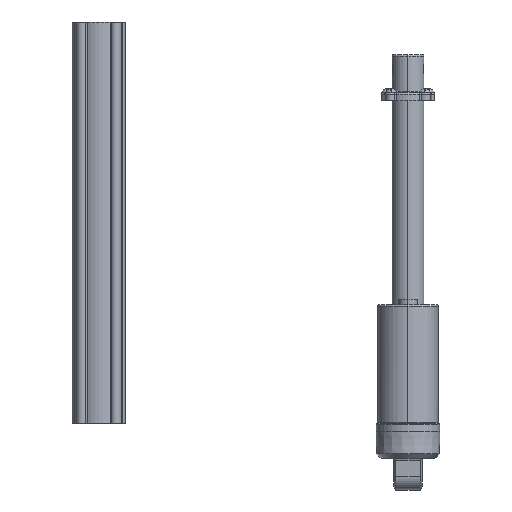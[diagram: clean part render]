
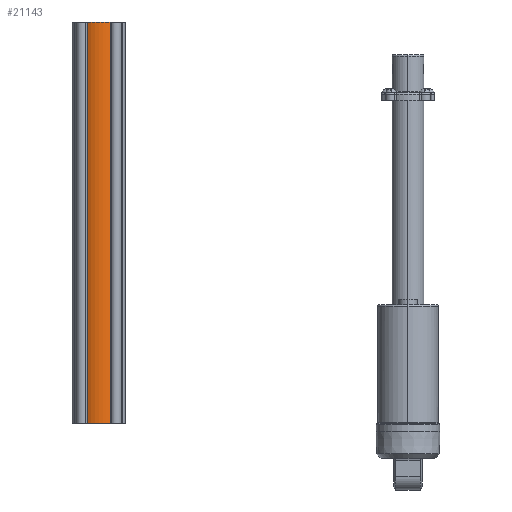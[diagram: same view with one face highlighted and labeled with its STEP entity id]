
A CAD part, left-side view. The second image highlights one B-rep face of the part: STEP entity #21143.
In plain terms, the highlighted cylindrical face has radius 15 mm (diameter 30 mm), a partial arc.
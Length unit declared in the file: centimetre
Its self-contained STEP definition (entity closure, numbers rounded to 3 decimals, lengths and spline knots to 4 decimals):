
#3224=CYLINDRICAL_SURFACE('',#23807,1.5);
#4313=LINE('',#34743,#25443);
#4314=LINE('',#34749,#25444);
#5996=VERTEX_POINT('',#34742);
#5997=VERTEX_POINT('',#34744);
#5998=VERTEX_POINT('',#34748);
#5999=VERTEX_POINT('',#34750);
#7784=CIRCLE('',#23808,1.5);
#7785=CIRCLE('',#23809,1.5);
#10422=EDGE_CURVE('',#5997,#5996,#4313,.T.);
#10424=EDGE_CURVE('',#5996,#5998,#7784,.T.);
#10425=EDGE_CURVE('',#5999,#5998,#4314,.T.);
#10426=EDGE_CURVE('',#5999,#5997,#7785,.T.);
#15720=ORIENTED_EDGE('',*,*,#10424,.T.);
#15721=ORIENTED_EDGE('',*,*,#10425,.F.);
#15722=ORIENTED_EDGE('',*,*,#10426,.T.);
#15723=ORIENTED_EDGE('',*,*,#10422,.T.);
#18585=EDGE_LOOP('',(#15720,#15721,#15722,#15723));
#19893=FACE_BOUND('',#18585,.T.);
#21143=ADVANCED_FACE('',(#19893),#3224,.T.);
#23807=AXIS2_PLACEMENT_3D('',#34746,#42604,#42605);
#23808=AXIS2_PLACEMENT_3D('',#34747,#42606,#42607);
#23809=AXIS2_PLACEMENT_3D('',#34751,#42609,#42610);
#25443=VECTOR('',#42601,1.);
#25444=VECTOR('',#42608,1.);
#34742=CARTESIAN_POINT('',(14.8607,18.6992,25.2));
#34743=CARTESIAN_POINT('',(14.8607,18.6992,0.));
#34744=CARTESIAN_POINT('',(14.8607,18.6992,0.));
#34746=CARTESIAN_POINT('',(16.1761,19.42,0.));
#34747=CARTESIAN_POINT('',(16.1761,19.42,25.2));
#34748=CARTESIAN_POINT('',(14.8607,20.1407,25.2));
#34749=CARTESIAN_POINT('',(14.8607,20.1407,0.));
#34750=CARTESIAN_POINT('',(14.8607,20.1407,0.));
#34751=CARTESIAN_POINT('',(16.1761,19.42,0.));
#42601=DIRECTION('',(0.,0.,1.));
#42604=DIRECTION('',(0.,0.,1.));
#42605=DIRECTION('',(1.5,0.,0.));
#42606=DIRECTION('',(0.,0.,-1.));
#42607=DIRECTION('',(1.5,0.,0.));
#42608=DIRECTION('',(0.,0.,1.));
#42609=DIRECTION('',(0.,0.,1.));
#42610=DIRECTION('',(1.5,0.,0.));
